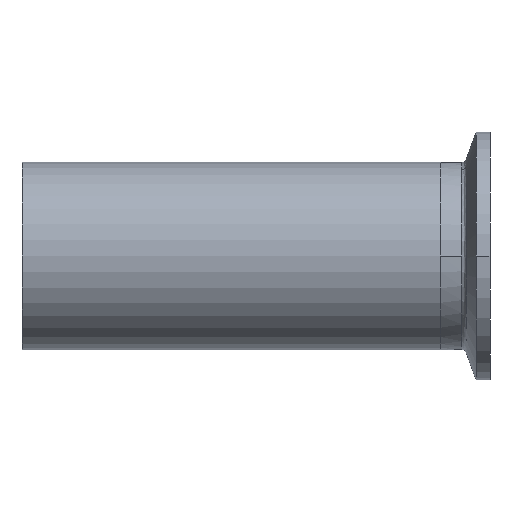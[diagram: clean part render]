
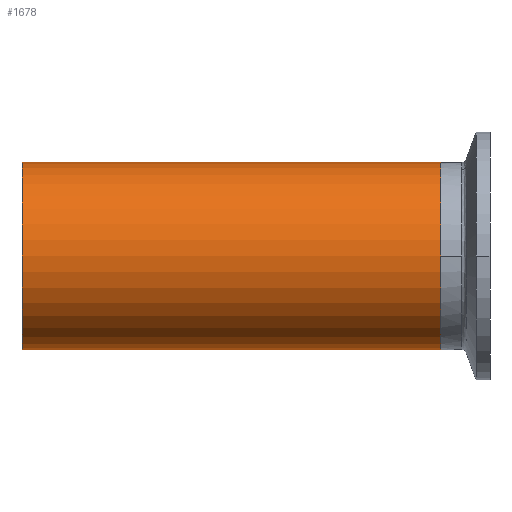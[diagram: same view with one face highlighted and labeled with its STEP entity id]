
A CAD part, front view. The second image highlights one B-rep face of the part: STEP entity #1678.
In plain terms, the highlighted cylindrical face has radius 19.05 mm (diameter 38.1 mm), a partial arc.
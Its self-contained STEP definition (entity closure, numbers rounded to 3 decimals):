
#40 = CARTESIAN_POINT ( 'NONE',  ( 78.782, 0., 19.05 ) ) ;
#77 = CARTESIAN_POINT ( 'NONE',  ( -60.3, 0., -19.05 ) ) ;
#114 = VECTOR ( 'NONE', #1899, 1000. ) ;
#123 = CARTESIAN_POINT ( 'NONE',  ( 0., 0., -19.05 ) ) ;
#124 = EDGE_CURVE ( 'NONE', #2111, #1906, #184, .T. ) ;
#184 = LINE ( 'NONE', #1842, #114 ) ;
#204 = CYLINDRICAL_SURFACE ( 'NONE', #1079, 19.05 ) ;
#249 = LINE ( 'NONE', #279, #2041 ) ;
#279 = CARTESIAN_POINT ( 'NONE',  ( 78.782, 0., 19.05 ) ) ;
#301 = LINE ( 'NONE', #752, #630 ) ;
#322 = ORIENTED_EDGE ( 'NONE', *, *, #1055, .T. ) ;
#379 = VERTEX_POINT ( 'NONE', #77 ) ;
#402 = VERTEX_POINT ( 'NONE', #1046 ) ;
#508 = VERTEX_POINT ( 'NONE', #1402 ) ;
#518 = ORIENTED_EDGE ( 'NONE', *, *, #1857, .T. ) ;
#544 = CIRCLE ( 'NONE', #1778, 19.05 ) ;
#563 = EDGE_CURVE ( 'NONE', #1087, #379, #1363, .T. ) ;
#568 = ORIENTED_EDGE ( 'NONE', *, *, #124, .F. ) ;
#570 = CARTESIAN_POINT ( 'NONE',  ( 24.9, 0., 0. ) ) ;
#604 = DIRECTION ( 'NONE',  ( -1., 0., 0. ) ) ;
#630 = VECTOR ( 'NONE', #903, 1000. ) ;
#678 = DIRECTION ( 'NONE',  ( 0., 0., 1. ) ) ;
#687 = ORIENTED_EDGE ( 'NONE', *, *, #1674, .T. ) ;
#731 = DIRECTION ( 'NONE',  ( 0., 0., 1. ) ) ;
#752 = CARTESIAN_POINT ( 'NONE',  ( 78.782, 0., -19.05 ) ) ;
#903 = DIRECTION ( 'NONE',  ( -1., 0., 0. ) ) ;
#922 = CARTESIAN_POINT ( 'NONE',  ( -60.3, 0., 19.05 ) ) ;
#964 = CARTESIAN_POINT ( 'NONE',  ( 24.9, 0., -19.05 ) ) ;
#1025 = DIRECTION ( 'NONE',  ( -1., 0., 0. ) ) ;
#1046 = CARTESIAN_POINT ( 'NONE',  ( 0., 0., 19.05 ) ) ;
#1055 = EDGE_CURVE ( 'NONE', #508, #402, #249, .T. ) ;
#1071 = EDGE_CURVE ( 'NONE', #1906, #379, #301, .T. ) ;
#1079 = AXIS2_PLACEMENT_3D ( 'NONE', #1919, #1025, #678 ) ;
#1087 = VERTEX_POINT ( 'NONE', #922 ) ;
#1103 = ORIENTED_EDGE ( 'NONE', *, *, #563, .T. ) ;
#1125 = LINE ( 'NONE', #40, #2040 ) ;
#1191 = DIRECTION ( 'NONE',  ( -1., 0., 0. ) ) ;
#1332 = EDGE_LOOP ( 'NONE', ( #568, #518, #322, #687, #1103, #1683 ) ) ;
#1363 = CIRCLE ( 'NONE', #1864, 19.05 ) ;
#1402 = CARTESIAN_POINT ( 'NONE',  ( 24.9, 0., 19.05 ) ) ;
#1674 = EDGE_CURVE ( 'NONE', #402, #1087, #1125, .T. ) ;
#1678 = ADVANCED_FACE ( 'NONE', ( #2208 ), #204, .T. ) ;
#1683 = ORIENTED_EDGE ( 'NONE', *, *, #1071, .F. ) ;
#1778 = AXIS2_PLACEMENT_3D ( 'NONE', #570, #1787, #731 ) ;
#1787 = DIRECTION ( 'NONE',  ( -1., 0., 0. ) ) ;
#1842 = CARTESIAN_POINT ( 'NONE',  ( 78.782, 0., -19.05 ) ) ;
#1857 = EDGE_CURVE ( 'NONE', #2111, #508, #544, .T. ) ;
#1864 = AXIS2_PLACEMENT_3D ( 'NONE', #2209, #2167, #2144 ) ;
#1899 = DIRECTION ( 'NONE',  ( -1., 0., 0. ) ) ;
#1906 = VERTEX_POINT ( 'NONE', #123 ) ;
#1919 = CARTESIAN_POINT ( 'NONE',  ( 78.782, 0., 0. ) ) ;
#2040 = VECTOR ( 'NONE', #1191, 1000. ) ;
#2041 = VECTOR ( 'NONE', #604, 1000. ) ;
#2111 = VERTEX_POINT ( 'NONE', #964 ) ;
#2144 = DIRECTION ( 'NONE',  ( 0., 0., 1. ) ) ;
#2167 = DIRECTION ( 'NONE',  ( 1., 0., 0. ) ) ;
#2208 = FACE_OUTER_BOUND ( 'NONE', #1332, .T. ) ;
#2209 = CARTESIAN_POINT ( 'NONE',  ( -60.3, 0., 0. ) ) ;
